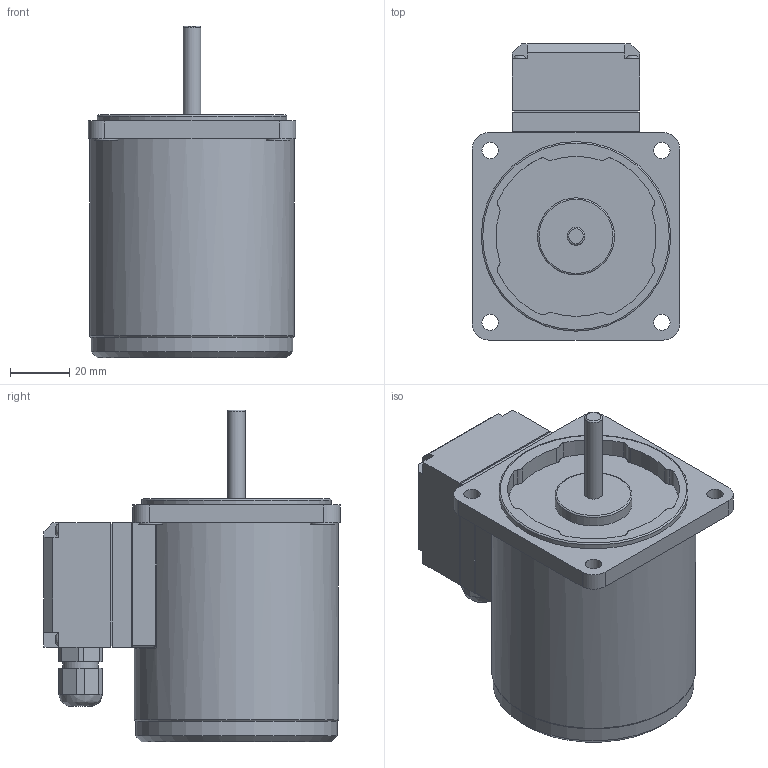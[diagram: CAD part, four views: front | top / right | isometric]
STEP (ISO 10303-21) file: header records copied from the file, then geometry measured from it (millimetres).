
FILE_DESCRIPTION((''),'2;1');
FILE_NAME('E:\2공장-도면\3D\표준형 3D(민규)\step file\K7IS15Nㅁ-T.stp','2014-11-12T17:42:00',('AHN'),(''),'Autodesk Inventor 2012','Autodesk Inventor 2012','');
FILE_SCHEMA(('CONFIG_CONTROL_DESIGN'));
Length unit declared in the file: millimetre
Products named in the file (4): K7IS15Nㅁ-T; K7IS15Nㅁ; TERMINAL BOX; 케이블1
Assembly tree (3 placements, depth 2):
  K7IS15Nㅁ-T
    K7IS15Nㅁ
    TERMINAL BOX
    케이블1
Bounding box: 70 x 100 x 112 mm (x, y, z)
Volume: 360270.7 mm3; surface area: 41192.9 mm2
Topology: 3 solids, 3 shells, 157 faces, 385 edges, 251 vertices
Faces by surface type: plane 93, cylinder 49, bspline 7, torus 5, cone 3
Full cylindrical faces by diameter (mm): 5.5 x4, 6 x1, 7.2 x1, 7.5 x1, 8 x4, 12 x2, 26 x1, 64 x1, 68 x1, 69 x1
Entity records: 4964 total; most frequent: CARTESIAN_POINT 1201, DIRECTION 780, ORIENTED_EDGE 700, EDGE_CURVE 350, AXIS2_PLACEMENT_3D 277, VERTEX_POINT 245, VECTOR 226, LINE 226
